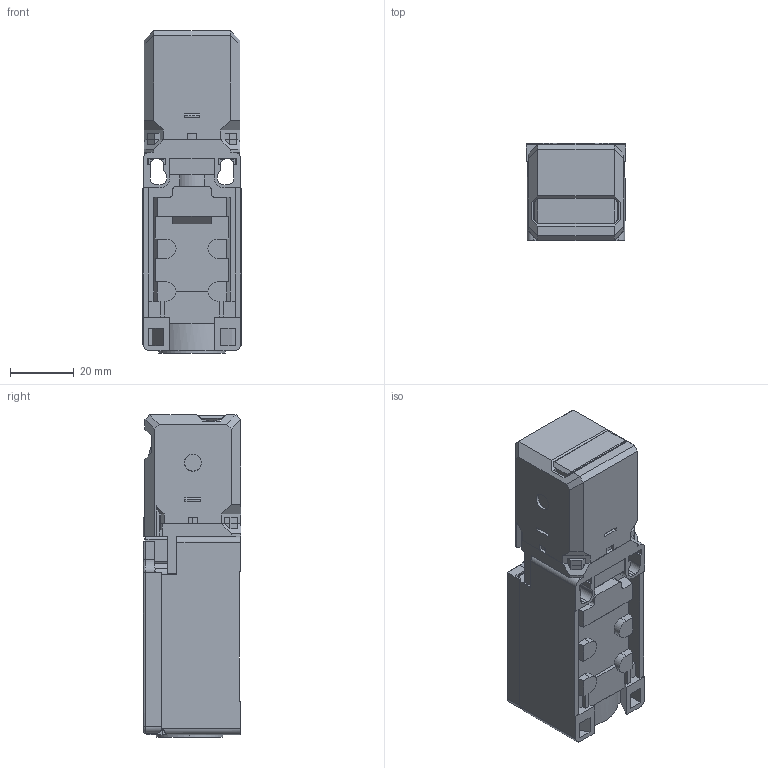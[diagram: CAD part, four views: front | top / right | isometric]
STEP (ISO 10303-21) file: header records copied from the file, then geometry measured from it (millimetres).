
FILE_DESCRIPTION((''),'2;1');
FILE_NAME('6116869252_03','2026-10-15T15:09:30',('Michael.Schnitker'),(''),'CREO PARAMETRIC BY PTC INC, 2022124','CREO PARAMETRIC BY PTC INC, 2022124','');
FILE_SCHEMA(('AUTOMOTIVE_DESIGN { 1 0 10303 214 1 1 1 1 }'));
Length unit declared in the file: millimetre
Products named in the file (1): 6116869252_03
Bounding box: 31 x 30.55 x 100.8 mm (x, y, z)
Volume: 64037.8 mm3; surface area: 26371.8 mm2
Topology: 1 solids, 1 shells, 973 faces, 2759 edges, 1744 vertices
Faces by surface type: plane 652, cylinder 246, cone 30, sphere 24, torus 21
Entity records: 32371 total; most frequent: CARTESIAN_POINT 6197, ORIENTED_EDGE 5502, DIRECTION 5251, EDGE_CURVE 2751, VECTOR 2046, LINE 2046, VERTEX_POINT 1744, AXIS2_PLACEMENT_3D 1601
